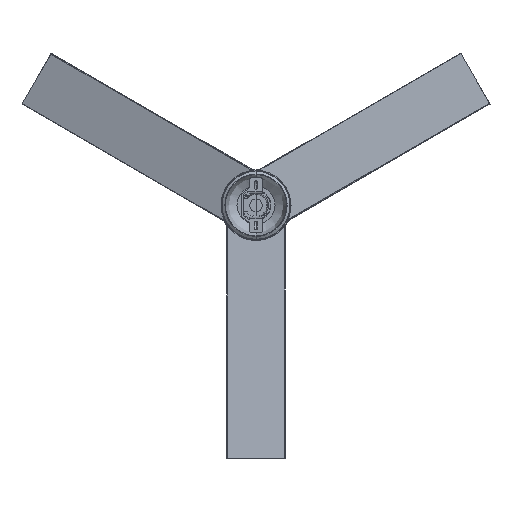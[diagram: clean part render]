
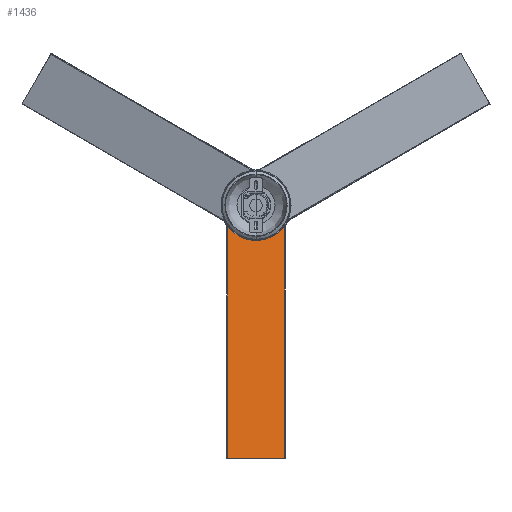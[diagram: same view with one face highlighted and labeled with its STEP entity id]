
A CAD part, top view. The second image highlights one B-rep face of the part: STEP entity #1436.
In plain terms, the highlighted planar face has unit normal (0.225, 0, 0.974).
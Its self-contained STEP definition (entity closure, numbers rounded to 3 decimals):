
#107=FACE_BOUND('',#1961,.T.);
#108=FACE_BOUND('',#1962,.T.);
#109=FACE_BOUND('',#1963,.T.);
#1436=ADVANCED_FACE('',(#1692,#107,#108,#109),#5490,.T.);
#1692=FACE_OUTER_BOUND('',#1960,.T.);
#1960=EDGE_LOOP('',(#2414,#2415,#2416,#2417,#2418,#2419));
#1961=EDGE_LOOP('',(#2420,#2421));
#1962=EDGE_LOOP('',(#2422,#2423));
#1963=EDGE_LOOP('',(#2424,#2425));
#2414=ORIENTED_EDGE('',*,*,#3654,.T.);
#2415=ORIENTED_EDGE('',*,*,#3655,.T.);
#2416=ORIENTED_EDGE('',*,*,#3656,.T.);
#2417=ORIENTED_EDGE('',*,*,#3635,.T.);
#2418=ORIENTED_EDGE('',*,*,#3657,.T.);
#2419=ORIENTED_EDGE('',*,*,#3658,.T.);
#2420=ORIENTED_EDGE('',*,*,#3651,.T.);
#2421=ORIENTED_EDGE('',*,*,#3652,.T.);
#2422=ORIENTED_EDGE('',*,*,#3645,.T.);
#2423=ORIENTED_EDGE('',*,*,#3646,.T.);
#2424=ORIENTED_EDGE('',*,*,#3639,.T.);
#2425=ORIENTED_EDGE('',*,*,#3640,.T.);
#3635=EDGE_CURVE('',#5120,#5122,#4258,.T.);
#3639=EDGE_CURVE('',#5124,#5126,#4260,.T.);
#3640=EDGE_CURVE('',#5126,#5124,#4261,.T.);
#3645=EDGE_CURVE('',#5128,#5130,#4264,.T.);
#3646=EDGE_CURVE('',#5130,#5128,#4265,.T.);
#3651=EDGE_CURVE('',#5132,#5134,#4268,.T.);
#3652=EDGE_CURVE('',#5134,#5132,#4269,.T.);
#3654=EDGE_CURVE('',#5135,#5136,#4677,.T.);
#3655=EDGE_CURVE('',#5136,#5137,#4678,.T.);
#3656=EDGE_CURVE('',#5137,#5120,#4679,.T.);
#3657=EDGE_CURVE('',#5122,#5138,#4680,.T.);
#3658=EDGE_CURVE('',#5138,#5135,#4681,.T.);
#4258=TRIMMED_CURVE($,#4460,(#7251),(#7252),.T.,.CARTESIAN.);
#4260=TRIMMED_CURVE($,#4462,(#7261),(#7262),.T.,.CARTESIAN.);
#4261=TRIMMED_CURVE($,#4463,(#7264),(#7265),.T.,.CARTESIAN.);
#4264=TRIMMED_CURVE($,#4466,(#7277),(#7278),.T.,.CARTESIAN.);
#4265=TRIMMED_CURVE($,#4467,(#7280),(#7281),.T.,.CARTESIAN.);
#4268=TRIMMED_CURVE($,#4470,(#7293),(#7294),.T.,.CARTESIAN.);
#4269=TRIMMED_CURVE($,#4471,(#7296),(#7297),.T.,.CARTESIAN.);
#4460=CIRCLE('',#5889,53.78);
#4462=CIRCLE('',#5891,2.5);
#4463=CIRCLE('',#5892,2.5);
#4466=CIRCLE('',#5895,2.5);
#4467=CIRCLE('',#5896,2.5);
#4470=CIRCLE('',#5899,2.5);
#4471=CIRCLE('',#5900,2.5);
#4677=B_SPLINE_CURVE_WITH_KNOTS('',1,(#7301,#7302),.UNSPECIFIED.,.F.,.F.,
(2,2),(0.,123.),.UNSPECIFIED.);
#4678=B_SPLINE_CURVE_WITH_KNOTS('',1,(#7303,#7304),.UNSPECIFIED.,.F.,.F.,
(2,2),(0.,499.99),.UNSPECIFIED.);
#4679=B_SPLINE_CURVE_WITH_KNOTS('',1,(#7305,#7306),.UNSPECIFIED.,.F.,.F.,
(2,2),(0.,16.315),.UNSPECIFIED.);
#4680=B_SPLINE_CURVE_WITH_KNOTS('',1,(#7307,#7308),.UNSPECIFIED.,.F.,.F.,
(2,2),(0.,14.435),.UNSPECIFIED.);
#4681=B_SPLINE_CURVE_WITH_KNOTS('',1,(#7309,#7310),.UNSPECIFIED.,.F.,.F.,
(2,2),(0.,499.99),.UNSPECIFIED.);
#5120=VERTEX_POINT('',#7212);
#5122=VERTEX_POINT('',#7214);
#5124=VERTEX_POINT('',#7216);
#5126=VERTEX_POINT('',#7218);
#5128=VERTEX_POINT('',#7220);
#5130=VERTEX_POINT('',#7222);
#5132=VERTEX_POINT('',#7224);
#5134=VERTEX_POINT('',#7226);
#5135=VERTEX_POINT('',#7227);
#5136=VERTEX_POINT('',#7228);
#5137=VERTEX_POINT('',#7229);
#5138=VERTEX_POINT('',#7230);
#5490=PLANE('',#5877);
#5877=AXIS2_PLACEMENT_3D('',#7200,#6353,$);
#5889=AXIS2_PLACEMENT_3D($,#7250,#6366,#6367);
#5891=AXIS2_PLACEMENT_3D($,#7260,#6370,#6371);
#5892=AXIS2_PLACEMENT_3D($,#7263,#6372,#6373);
#5895=AXIS2_PLACEMENT_3D($,#7276,#6378,#6379);
#5896=AXIS2_PLACEMENT_3D($,#7279,#6380,#6381);
#5899=AXIS2_PLACEMENT_3D($,#7292,#6386,#6387);
#5900=AXIS2_PLACEMENT_3D($,#7295,#6388,#6389);
#6353=DIRECTION('',(0.225,0.,0.974));
#6366=DIRECTION('',(-0.225,0.,-0.974));
#6367=DIRECTION('',(0.836,-0.514,-0.193));
#6370=DIRECTION('',(-0.225,0.,-0.974));
#6371=DIRECTION('',(-0.974,0.,0.225));
#6372=DIRECTION('',(-0.225,0.,-0.974));
#6373=DIRECTION('',(0.974,0.,-0.225));
#6378=DIRECTION('',(-0.225,0.,-0.974));
#6379=DIRECTION('',(-0.974,0.,0.225));
#6380=DIRECTION('',(-0.225,0.,-0.974));
#6381=DIRECTION('',(0.974,0.,-0.225));
#6386=DIRECTION('',(-0.225,0.,-0.974));
#6387=DIRECTION('',(-0.974,0.,0.225));
#6388=DIRECTION('',(-0.225,0.,-0.974));
#6389=DIRECTION('',(0.974,0.,-0.225));
#7200=CARTESIAN_POINT('',(18.537,-6271.295,52.056));
#7212=CARTESIAN_POINT('',(-9.484,-5721.186,58.525));
#7214=CARTESIAN_POINT('',(-99.37,-5721.186,79.277));
#7216=CARTESIAN_POINT('',(-102.244,-5738.472,79.941));
#7218=CARTESIAN_POINT('',(-97.372,-5738.472,78.816));
#7220=CARTESIAN_POINT('',(-57.121,-5758.198,69.523));
#7222=CARTESIAN_POINT('',(-52.249,-5758.198,68.398));
#7224=CARTESIAN_POINT('',(-12.123,-5738.349,59.135));
#7226=CARTESIAN_POINT('',(-7.252,-5738.349,58.01));
#7227=CARTESIAN_POINT('',(-113.435,-6221.176,82.524));
#7228=CARTESIAN_POINT('',(6.412,-6221.176,54.855));
#7229=CARTESIAN_POINT('',(6.412,-5721.186,54.855));
#7230=CARTESIAN_POINT('',(-113.435,-5721.186,82.524));
#7250=CARTESIAN_POINT('',(-54.427,-5693.531,68.901));
#7251=CARTESIAN_POINT('',(-9.484,-5721.186,58.525));
#7252=CARTESIAN_POINT('',(-99.37,-5721.186,79.277));
#7260=CARTESIAN_POINT('',(-99.808,-5738.472,79.378));
#7261=CARTESIAN_POINT('',(-102.244,-5738.472,79.941));
#7262=CARTESIAN_POINT('',(-97.372,-5738.472,78.816));
#7263=CARTESIAN_POINT('',(-99.808,-5738.472,79.378));
#7264=CARTESIAN_POINT('',(-97.372,-5738.472,78.816));
#7265=CARTESIAN_POINT('',(-102.244,-5738.472,79.941));
#7276=CARTESIAN_POINT('',(-54.685,-5758.198,68.961));
#7277=CARTESIAN_POINT('',(-57.121,-5758.198,69.523));
#7278=CARTESIAN_POINT('',(-52.249,-5758.198,68.398));
#7279=CARTESIAN_POINT('',(-54.685,-5758.198,68.961));
#7280=CARTESIAN_POINT('',(-52.249,-5758.198,68.398));
#7281=CARTESIAN_POINT('',(-57.121,-5758.198,69.523));
#7292=CARTESIAN_POINT('',(-9.687,-5738.349,58.572));
#7293=CARTESIAN_POINT('',(-12.123,-5738.349,59.135));
#7294=CARTESIAN_POINT('',(-7.252,-5738.349,58.01));
#7295=CARTESIAN_POINT('',(-9.687,-5738.349,58.572));
#7296=CARTESIAN_POINT('',(-7.252,-5738.349,58.01));
#7297=CARTESIAN_POINT('',(-12.123,-5738.349,59.135));
#7301=CARTESIAN_POINT('',(-113.435,-6221.176,82.524));
#7302=CARTESIAN_POINT('',(6.412,-6221.176,54.855));
#7303=CARTESIAN_POINT('',(6.412,-6221.176,54.855));
#7304=CARTESIAN_POINT('',(6.412,-5721.186,54.855));
#7305=CARTESIAN_POINT('',(6.412,-5721.186,54.855));
#7306=CARTESIAN_POINT('',(-9.484,-5721.186,58.525));
#7307=CARTESIAN_POINT('',(-99.37,-5721.186,79.277));
#7308=CARTESIAN_POINT('',(-113.435,-5721.186,82.524));
#7309=CARTESIAN_POINT('',(-113.435,-5721.186,82.524));
#7310=CARTESIAN_POINT('',(-113.435,-6221.176,82.524));
